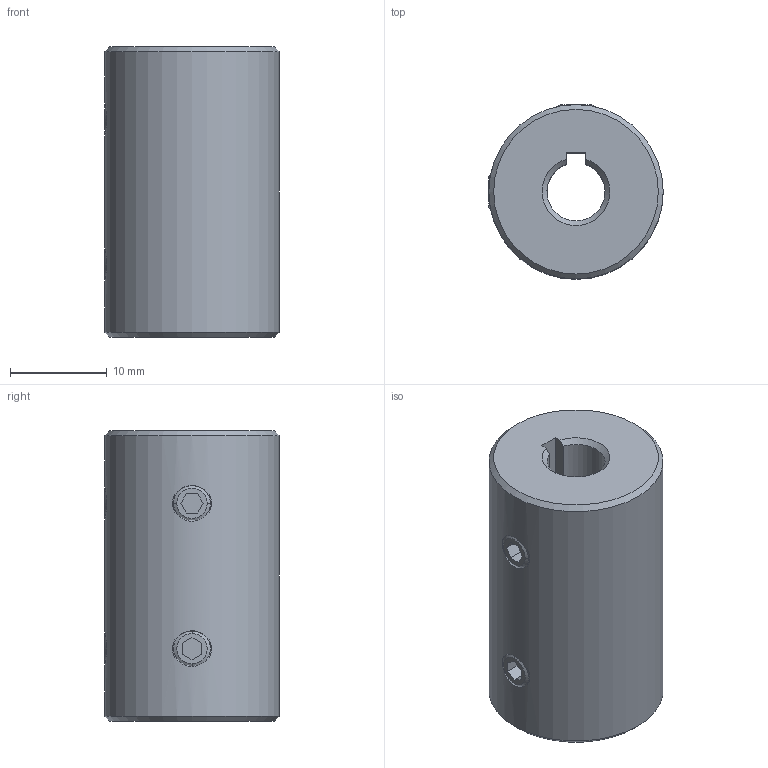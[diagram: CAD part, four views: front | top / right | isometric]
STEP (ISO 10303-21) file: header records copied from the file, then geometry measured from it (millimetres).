
FILE_DESCRIPTION (( 'STEP AP214' ), '1' );
FILE_NAME ('KBST1-VA-N6.STEP', '2025-07-29T07:28:25', ( '' ), ( '' ), 'SwSTEP 2.0', 'SolidWorks 2024', '' );
FILE_SCHEMA (( 'AUTOMOTIVE_DESIGN' ));
Length unit declared in the file: millimetre
Products named in the file (1): KBST1-VA-N6
Bounding box: 18 x 18 x 30 mm (x, y, z)
Volume: 6676.3 mm3; surface area: 3257.7 mm2
Topology: 5 solids, 5 shells, 89 faces, 213 edges, 128 vertices
Faces by surface type: plane 43, cone 28, cylinder 14, bspline 4
Full cylindrical faces by diameter (mm): 3.3 x4, 18 x1
Entity records: 7514 total; most frequent: CARTESIAN_POINT 4510, DIRECTION 390, ORIENTED_EDGE 384, EDGE_CURVE 192, AXIS2_PLACEMENT_3D 130, LINE 130, VECTOR 130, VERTEX_POINT 126
